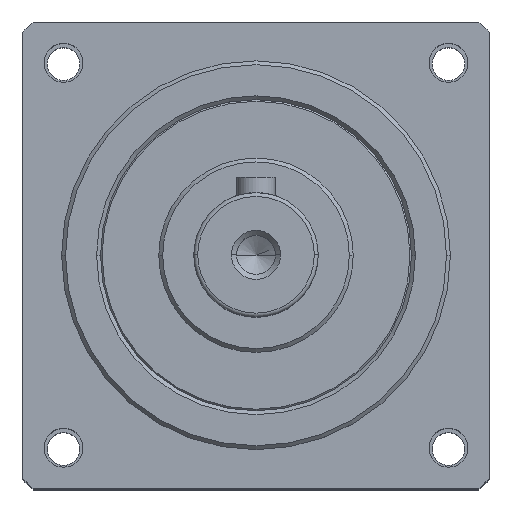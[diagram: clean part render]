
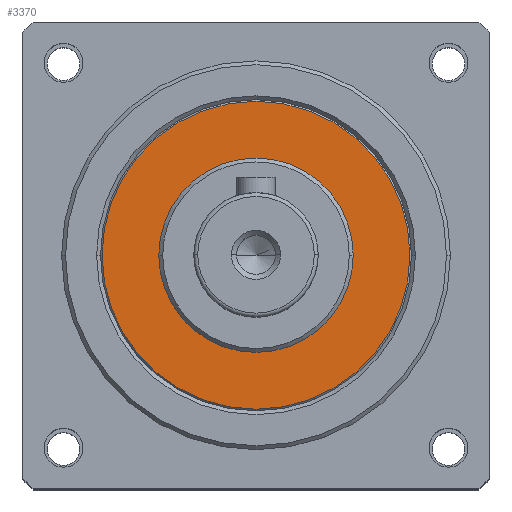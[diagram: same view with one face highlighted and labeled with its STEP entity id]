
A CAD part, top view. The second image highlights one B-rep face of the part: STEP entity #3370.
In plain terms, the highlighted planar face has unit normal (0, 0, 1).
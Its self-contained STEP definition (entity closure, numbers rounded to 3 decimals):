
#517 = ORIENTED_EDGE ( 'NONE', *, *, #2909, .F. ) ;
#672 = DIRECTION ( 'NONE',  ( 1., 0., 0. ) ) ;
#689 = CIRCLE ( 'NONE', #5695, 19.8 ) ;
#778 = DIRECTION ( 'NONE',  ( 0., 0., 1. ) ) ;
#1185 = ORIENTED_EDGE ( 'NONE', *, *, #1290, .F. ) ;
#1290 = EDGE_CURVE ( 'NONE', #6626, #7377, #5375, .T. ) ;
#1357 = CARTESIAN_POINT ( 'NONE',  ( 10.2, 30., 109. ) ) ;
#1421 = ORIENTED_EDGE ( 'NONE', *, *, #3010, .T. ) ;
#1424 = EDGE_CURVE ( 'NONE', #5036, #8221, #689, .T. ) ;
#1917 = DIRECTION ( 'NONE',  ( 1., 0., 0. ) ) ;
#1950 = DIRECTION ( 'NONE',  ( 0., 0., 1. ) ) ;
#1992 = CARTESIAN_POINT ( 'NONE',  ( 30., 30., 109. ) ) ;
#2139 = CIRCLE ( 'NONE', #4762, 19.8 ) ;
#2214 = CARTESIAN_POINT ( 'NONE',  ( 17.5, 30., 109. ) ) ;
#2790 = AXIS2_PLACEMENT_3D ( 'NONE', #1992, #1950, #1917 ) ;
#2909 = EDGE_CURVE ( 'NONE', #7377, #6626, #5159, .T. ) ;
#2972 = CARTESIAN_POINT ( 'NONE',  ( 30., 30., 109. ) ) ;
#3010 = EDGE_CURVE ( 'NONE', #8221, #5036, #2139, .T. ) ;
#3370 = ADVANCED_FACE ( 'NONE', ( #4123, #3888 ), #4077, .T. ) ;
#3888 = FACE_OUTER_BOUND ( 'NONE', #6432, .T. ) ;
#4077 = PLANE ( 'NONE',  #2790 ) ;
#4123 = FACE_BOUND ( 'NONE', #6737, .T. ) ;
#4762 = AXIS2_PLACEMENT_3D ( 'NONE', #7640, #7968, #7329 ) ;
#5036 = VERTEX_POINT ( 'NONE', #7660 ) ;
#5159 = CIRCLE ( 'NONE', #8628, 12.5 ) ;
#5375 = CIRCLE ( 'NONE', #5982, 12.5 ) ;
#5695 = AXIS2_PLACEMENT_3D ( 'NONE', #8344, #8330, #8317 ) ;
#5982 = AXIS2_PLACEMENT_3D ( 'NONE', #2972, #778, #672 ) ;
#6432 = EDGE_LOOP ( 'NONE', ( #1421, #7061 ) ) ;
#6626 = VERTEX_POINT ( 'NONE', #2214 ) ;
#6737 = EDGE_LOOP ( 'NONE', ( #517, #1185 ) ) ;
#7061 = ORIENTED_EDGE ( 'NONE', *, *, #1424, .T. ) ;
#7329 = DIRECTION ( 'NONE',  ( 1., 0., 0. ) ) ;
#7377 = VERTEX_POINT ( 'NONE', #8065 ) ;
#7640 = CARTESIAN_POINT ( 'NONE',  ( 30., 30., 109. ) ) ;
#7660 = CARTESIAN_POINT ( 'NONE',  ( 49.8, 30., 109. ) ) ;
#7968 = DIRECTION ( 'NONE',  ( 0., 0., 1. ) ) ;
#7972 = DIRECTION ( 'NONE',  ( 1., 0., 0. ) ) ;
#7999 = DIRECTION ( 'NONE',  ( 0., 0., 1. ) ) ;
#8056 = CARTESIAN_POINT ( 'NONE',  ( 30., 30., 109. ) ) ;
#8065 = CARTESIAN_POINT ( 'NONE',  ( 42.5, 30., 109. ) ) ;
#8221 = VERTEX_POINT ( 'NONE', #1357 ) ;
#8317 = DIRECTION ( 'NONE',  ( 1., 0., 0. ) ) ;
#8330 = DIRECTION ( 'NONE',  ( 0., 0., 1. ) ) ;
#8344 = CARTESIAN_POINT ( 'NONE',  ( 30., 30., 109. ) ) ;
#8628 = AXIS2_PLACEMENT_3D ( 'NONE', #8056, #7999, #7972 ) ;
